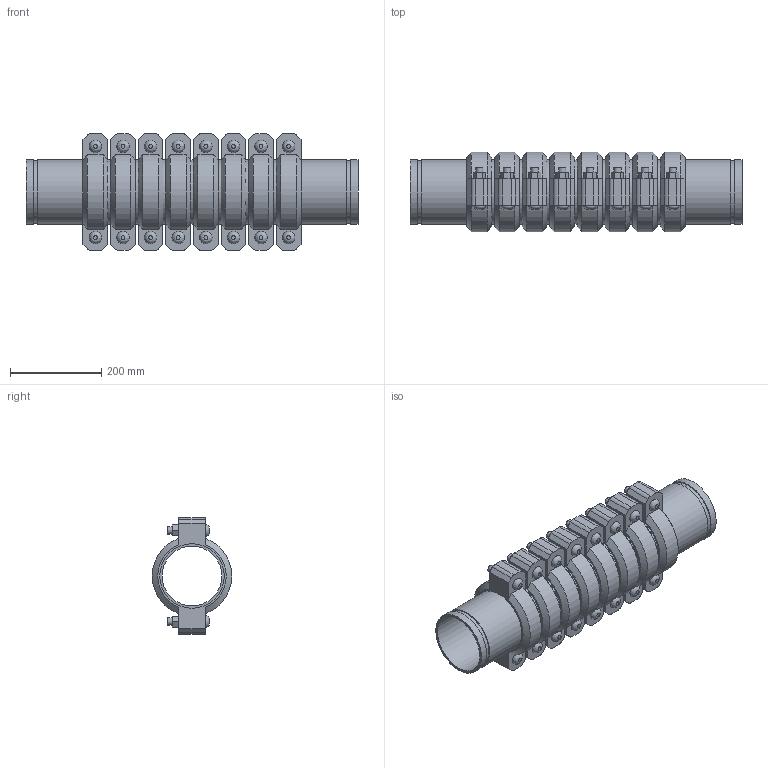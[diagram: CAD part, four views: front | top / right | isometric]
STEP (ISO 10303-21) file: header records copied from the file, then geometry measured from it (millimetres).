
FILE_DESCRIPTION(/* description */ ('VIC EXPANSION JOINT 8 COUPLINGS COMPRESSED STYLE 155 (OGS)','CAx-IF Rec.Pracs.---Representation and Presentation of Product Manufacturing Information (PMI)---4.0---2014-10-13'),/* implementation_level */ '2;1');
FILE_NAME(/* name */ 'C:\Users\kkamble\AppData\Roaming\Autodesk\ApplicationPlugins\Victaulic.Temp\A709\Victaulic_IPS_Expansion Joint_Compressed_8 Couplings_Style 155 (OGS)_5 (125).stp',/* time_stamp */ '2021-06-27T00:36:19+02:00',/* author */ ('kkamble'),/* organization */ ('Victaulic'),/* preprocessor_version */ 'ST-DEVELOPER v17.2',/* originating_system */ 'Autodesk Inventor 2019',/* authorisation */ '');
FILE_SCHEMA (('AP242_MANAGED_MODEL_BASED_3D_ENGINEERING_MIM_LF { 1 0 10303 442 1 1 4 }'));
Length unit declared in the file: inch
Products named in the file (4): 155-05.0; Nipple-05.0; Nipple-05.0_1; 075_8_Coup-05.0
Assembly tree (17 placements, depth 2):
  155-05.0
    Nipple-05.0  x2
    Nipple-05.0_1  x7
    075_8_Coup-05.0  x8
Bounding box: 727.2 x 174.16 x 255.78 mm (x, y, z)
Volume: 6793027.1 mm3; surface area: 1501683.5 mm2
Topology: 17 solids, 33 shells, 564 faces, 1334 edges, 936 vertices
Faces by surface type: plane 342, cylinder 174, cone 32, bspline 16
Full cylindrical faces by diameter (mm): 15.875 x32, 17.424 x16, 130.988 x9, 134.95 x8, 137.033 x18, 141.3 x43
Entity records: 2858 total; most frequent: CARTESIAN_POINT 501, DIRECTION 477, ORIENTED_EDGE 386, EDGE_CURVE 193, AXIS2_PLACEMENT_3D 192, VERTEX_POINT 138, EDGE_LOOP 107, LINE 93
